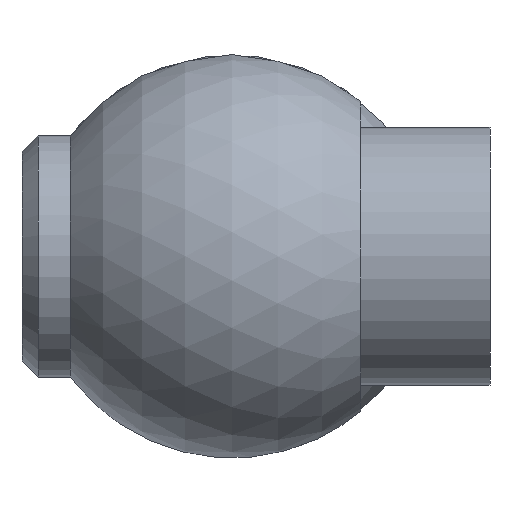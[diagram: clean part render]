
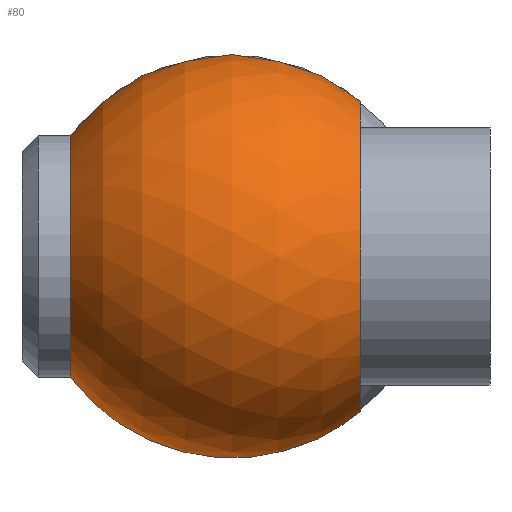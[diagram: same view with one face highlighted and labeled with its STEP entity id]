
A CAD part, left-side view. The second image highlights one B-rep face of the part: STEP entity #80.
In plain terms, the highlighted spherical face has radius 12.5 mm.
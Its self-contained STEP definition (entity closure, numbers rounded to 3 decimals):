
#80 = ADVANCED_FACE( '', ( #106, #107, #108 ), #109, .T. );
#106 = FACE_OUTER_BOUND( '', #151, .T. );
#107 = FACE_BOUND( '', #152, .T. );
#108 = FACE_OUTER_BOUND( '', #153, .T. );
#109 = SPHERICAL_SURFACE( '', #154, 12.5 );
#151 = EDGE_LOOP( '', ( #206 ) );
#152 = EDGE_LOOP( '', ( #207 ) );
#153 = EDGE_LOOP( '', ( #208 ) );
#154 = AXIS2_PLACEMENT_3D( '', #209, #210, #211 );
#206 = ORIENTED_EDGE( '', *, *, #264, .T. );
#207 = ORIENTED_EDGE( '', *, *, #259, .T. );
#208 = ORIENTED_EDGE( '', *, *, #265, .F. );
#209 = CARTESIAN_POINT( '', ( 0., 16., 0. ) );
#210 = DIRECTION( '', ( 0., -1., 0. ) );
#211 = DIRECTION( '', ( 1., 0., 0. ) );
#259 = EDGE_CURVE( '', #276, #276, #277, .T. );
#264 = EDGE_CURVE( '', #286, #286, #287, .T. );
#265 = EDGE_CURVE( '', #288, #288, #289, .T. );
#276 = VERTEX_POINT( '', #304 );
#277 = CIRCLE( '', #305, 5.5 );
#286 = VERTEX_POINT( '', #314 );
#287 = CIRCLE( '', #315, 7.5 );
#288 = VERTEX_POINT( '', #316 );
#289 = CIRCLE( '', #317, 9.605 );
#304 = CARTESIAN_POINT( '', ( 11.225, 16., 5.5 ) );
#305 = AXIS2_PLACEMENT_3D( '', #334, #335, #336 );
#314 = CARTESIAN_POINT( '', ( 0., 26., -7.5 ) );
#315 = AXIS2_PLACEMENT_3D( '', #349, #350, #351 );
#316 = CARTESIAN_POINT( '', ( 0., 8., -9.605 ) );
#317 = AXIS2_PLACEMENT_3D( '', #352, #353, #354 );
#334 = CARTESIAN_POINT( '', ( 11.225, 16., 0. ) );
#335 = DIRECTION( '', ( -1., 0., 0. ) );
#336 = DIRECTION( '', ( 0., 0., 1. ) );
#349 = CARTESIAN_POINT( '', ( 0., 26., 0. ) );
#350 = DIRECTION( '', ( 0., -1., 0. ) );
#351 = DIRECTION( '', ( 0., 0., -1. ) );
#352 = CARTESIAN_POINT( '', ( 0., 8., 0. ) );
#353 = DIRECTION( '', ( 0., -1., 0. ) );
#354 = DIRECTION( '', ( 0., 0., -1. ) );
